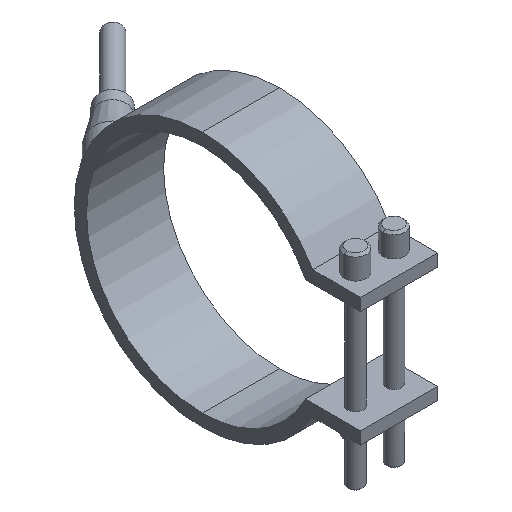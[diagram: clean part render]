
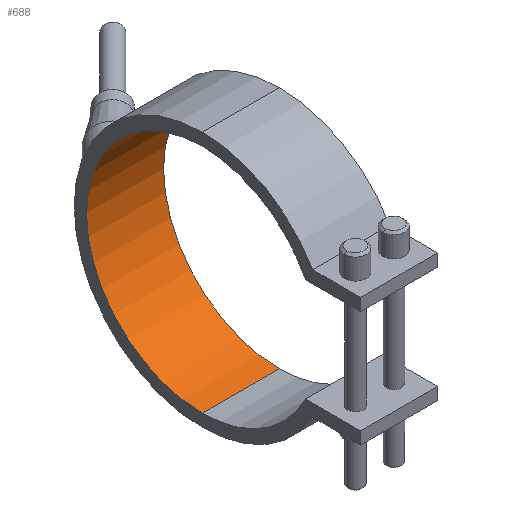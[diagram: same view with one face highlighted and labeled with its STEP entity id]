
A CAD part, isometric view. The second image highlights one B-rep face of the part: STEP entity #688.
In plain terms, the highlighted cylindrical face has radius 37.5 mm (diameter 75 mm), a partial arc.
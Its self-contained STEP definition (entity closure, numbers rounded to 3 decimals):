
#358=CARTESIAN_POINT('Vertex',(12.5,0.,37.5)) ;
#363=CARTESIAN_POINT('Axis2P3D Location',(12.5,0.,0.)) ;
#367=CARTESIAN_POINT('Vertex',(12.5,0.,-37.5)) ;
#474=CARTESIAN_POINT('Vertex',(-12.5,0.,-37.5)) ;
#477=CARTESIAN_POINT('Axis2P3D Location',(-12.5,0.,0.)) ;
#481=CARTESIAN_POINT('Vertex',(-12.5,0.,37.5)) ;
#660=CARTESIAN_POINT('Line Origine',(12.5,0.,37.5)) ;
#672=CARTESIAN_POINT('Axis2P3D Location',(12.5,0.,0.)) ;
#677=CARTESIAN_POINT('Line Origine',(12.5,0.,-37.5)) ;
#364=DIRECTION('Axis2P3D Direction',(1.,0.,0.)) ;
#478=DIRECTION('Axis2P3D Direction',(1.,0.,0.)) ;
#661=DIRECTION('Vector Direction',(1.,0.,0.)) ;
#673=DIRECTION('Axis2P3D Direction',(1.,0.,-0.)) ;
#674=DIRECTION('Axis2P3D XDirection',(0.,0.,-1.)) ;
#678=DIRECTION('Vector Direction',(1.,0.,0.)) ;
#365=AXIS2_PLACEMENT_3D('Circle Axis2P3D',#363,#364,$) ;
#479=AXIS2_PLACEMENT_3D('Circle Axis2P3D',#477,#478,$) ;
#675=AXIS2_PLACEMENT_3D('Cylinder Axis2P3D',#672,#673,#674) ;
#683=ORIENTED_EDGE('',*,*,#369,.T.) ;
#684=ORIENTED_EDGE('',*,*,#664,.T.) ;
#685=ORIENTED_EDGE('',*,*,#483,.F.) ;
#686=ORIENTED_EDGE('',*,*,#681,.T.) ;
#662=VECTOR('Line Direction',#661,1.) ;
#679=VECTOR('Line Direction',#678,1.) ;
#688=ADVANCED_FACE('29075025',(#687),#676,.F.) ;
#366=CIRCLE('generated circle',#365,37.5) ;
#480=CIRCLE('generated circle',#479,37.5) ;
#676=CYLINDRICAL_SURFACE('generated cylinder',#675,37.5) ;
#369=EDGE_CURVE('',#368,#359,#366,.T.) ;
#483=EDGE_CURVE('',#475,#482,#480,.T.) ;
#664=EDGE_CURVE('',#359,#482,#663,.F.) ;
#681=EDGE_CURVE('',#475,#368,#680,.T.) ;
#682=EDGE_LOOP('',(#683,#684,#685,#686)) ;
#687=FACE_OUTER_BOUND('',#682,.T.) ;
#663=LINE('Line',#660,#662) ;
#680=LINE('Line',#677,#679) ;
#359=VERTEX_POINT('',#358) ;
#368=VERTEX_POINT('',#367) ;
#475=VERTEX_POINT('',#474) ;
#482=VERTEX_POINT('',#481) ;
